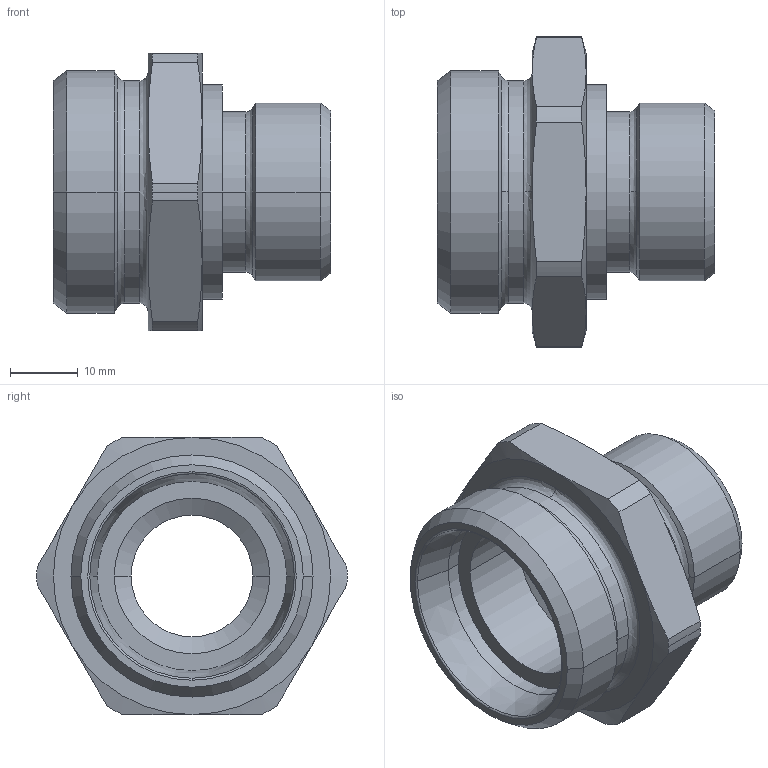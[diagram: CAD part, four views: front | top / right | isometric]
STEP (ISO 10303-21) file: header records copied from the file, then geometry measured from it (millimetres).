
FILE_DESCRIPTION((''),'2;1');
FILE_NAME('100551.stp','2007-10-30T14:22:32',(''),(''),'AutoCAD STEP 2000i','AutoCAD 2000i',', , ');
FILE_SCHEMA(('CONFIG_CONTROL_DESIGN'));
Length unit declared in the file: millimetre
Products named in the file (2): 100551.0; CHIAVE SMUSSATA#0
Assembly tree (1 placements, depth 2):
  100551.0
    CHIAVE SMUSSATA#0
Bounding box: 41 x 45.9 x 41 mm (x, y, z)
Volume: 19683.2 mm3; surface area: 9410.5 mm2
Topology: 1 solids, 1 shells, 79 faces, 193 edges, 121 vertices
Faces by surface type: cylinder 26, cone 26, plane 13, bspline 12, torus 2
Entity records: 2935 total; most frequent: CARTESIAN_POINT 971, DIRECTION 430, ORIENTED_EDGE 386, EDGE_CURVE 193, AXIS2_PLACEMENT_3D 192, CIRCLE 123, VERTEX_POINT 121, EDGE_LOOP 86
